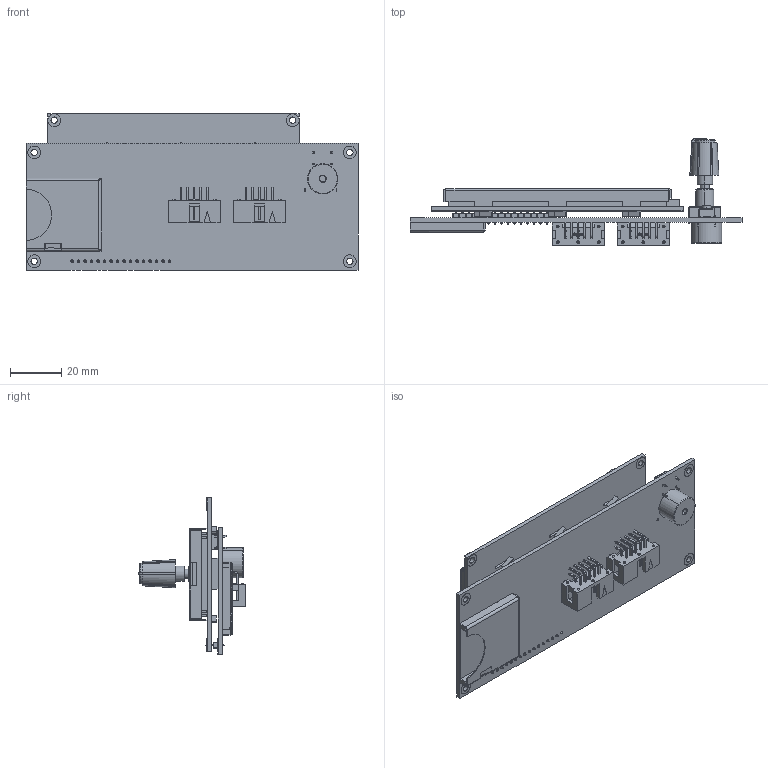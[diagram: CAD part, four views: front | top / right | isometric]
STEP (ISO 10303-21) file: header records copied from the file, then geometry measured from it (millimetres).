
FILE_DESCRIPTION (( 'STEP AP214' ), '1' );
FILE_NAME ('GADGETS3D_LCD_SHIELD.STEP', '2014-06-13T19:21:55', ( 'Administrator' ), ( 'Administrator' ), 'SwSTEP 2.0', 'SolidWorks 2014', '' );
FILE_SCHEMA (( 'AUTOMOTIVE_DESIGN' ));
Length unit declared in the file: millimetre
Products named in the file (17): pin1 ra; c-1761681-03-a-3d Body; LCD 20x4; conductors_20x4; LCD_20x4; LCDbacklight_20x4; metal_casing_20x4; LCD_20x4_PCB; pin_header_ap_126-16_g-a; SD_PCB; GADGETS3D_LCD_SHIELD; SELECTION_SWITCH; BUZZER; SD_CARD_HOLDER; tactileswitch-short; MALE 5x2 ra header; pin2 ra
Assembly tree (26 placements, depth 3):
  GADGETS3D_LCD_SHIELD
    SD_PCB
    pin_header_ap_126-16_g-a
    LCD 20x4
      LCD_20x4_PCB
      metal_casing_20x4
      LCDbacklight_20x4
      LCD_20x4
      conductors_20x4  x2
    MALE 5x2 ra header  x2
      c-1761681-03-a-3d Body
      pin1 ra
      pin2 ra
    tactileswitch-short
    SD_CARD_HOLDER
    BUZZER
    SELECTION_SWITCH
Bounding box: 129.7 x 41.97 x 61.1 mm (x, y, z)
Volume: 39514.1 mm3; surface area: 56266.7 mm2
Topology: 39 solids, 39 shells, 2119 faces, 5281 edges, 3314 vertices
Faces by surface type: plane 1385, cylinder 531, torus 77, cone 68, bspline 34, sphere 24
Entity records: 54928 total; most frequent: CARTESIAN_POINT 9386, DIRECTION 8243, ORIENTED_EDGE 7992, EDGE_CURVE 3996, LINE 2825, VECTOR 2825, AXIS2_PLACEMENT_3D 2709, VERTEX_POINT 2524
